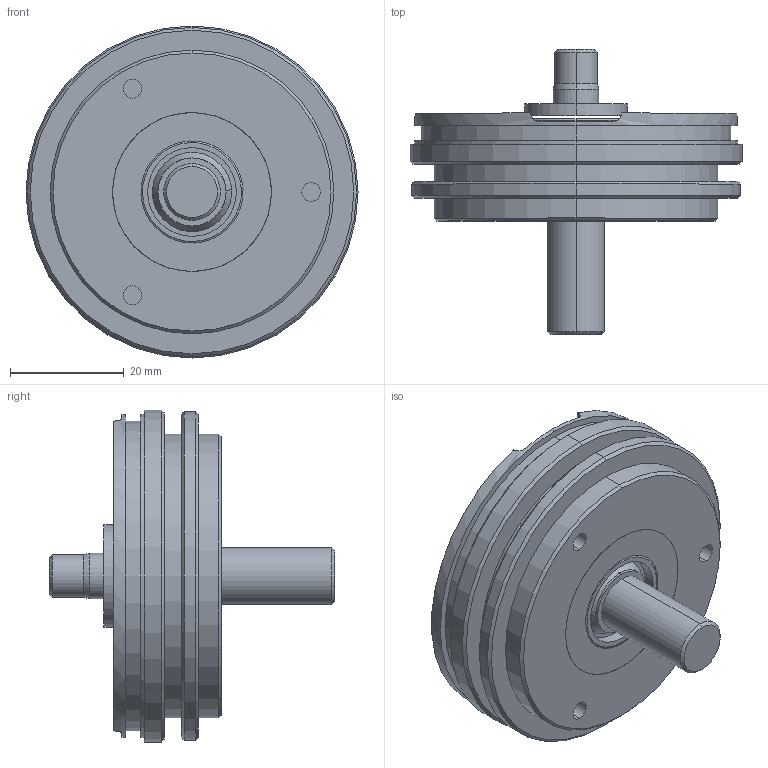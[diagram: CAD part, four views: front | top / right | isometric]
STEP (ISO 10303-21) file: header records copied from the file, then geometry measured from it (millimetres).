
FILE_DESCRIPTION (( 'STEP AP214' ), '1' );
FILE_NAME ('OCD-S10S-C5Y-N.STEP', '2015-06-16T07:22:13', ( '' ), ( '' ), 'SwSTEP 2.0', 'SolidWorks 2015', '' );
FILE_SCHEMA (( 'AUTOMOTIVE_DESIGN' ));
Length unit declared in the file: millimetre
Products named in the file (1): OCD-S10S-C5Y-N
Bounding box: 58.5 x 50.25 x 58.5 mm (x, y, z)
Surface area: 14680.4 mm2 (no closed solid volume)
Topology: 0 solids, 7 shells, 111 faces, 260 edges, 166 vertices
Faces by surface type: cylinder 62, cone 22, plane 21, torus 6
Entity records: 4544 total; most frequent: DIRECTION 640, CARTESIAN_POINT 630, ORIENTED_EDGE 478, AXIS2_PLACEMENT_3D 276, EDGE_CURVE 260, VERTEX_POINT 166, CIRCLE 164, EDGE_LOOP 135
